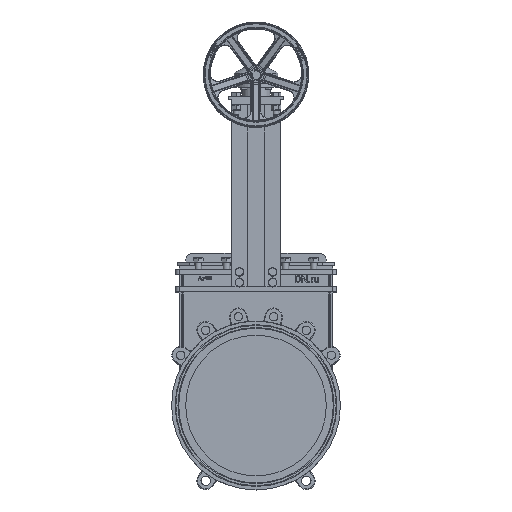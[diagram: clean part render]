
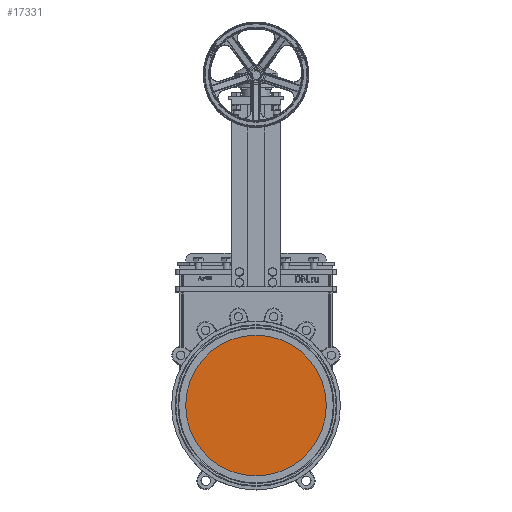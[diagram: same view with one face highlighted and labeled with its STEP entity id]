
A CAD part, top view. The second image highlights one B-rep face of the part: STEP entity #17331.
In plain terms, the highlighted planar face has unit normal (0, 0, 1).
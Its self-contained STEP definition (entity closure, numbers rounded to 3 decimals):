
#17331=ADVANCED_FACE('',(#39628),#39630,.T.);
#39628=FACE_BOUND('',#39629,.T.);
#39629=EDGE_LOOP('',(#49354));
#39630=PLANE('',#39631);
#39631=AXIS2_PLACEMENT_3D('',#39632,#39633,#39634);
#39632=CARTESIAN_POINT('',(0.,0.,5.));
#39633=DIRECTION('',(0.,0.,1.));
#39634=DIRECTION('',(1.,0.,0.));
#49354=ORIENTED_EDGE('',*,*,#54061,.T.);
#54061=EDGE_CURVE('',#61754,#61754,#61755,.F.);
#61754=VERTEX_POINT('',#114151);
#61755=CIRCLE('',#114152,200.);
#114151=CARTESIAN_POINT('',(0.,200.,5.));
#114152=AXIS2_PLACEMENT_3D('',#114153,#114154,#114155);
#114153=CARTESIAN_POINT('',(0.,0.,5.));
#114154=DIRECTION('',(0.,0.,-1.));
#114155=DIRECTION('',(0.,1.,0.));
